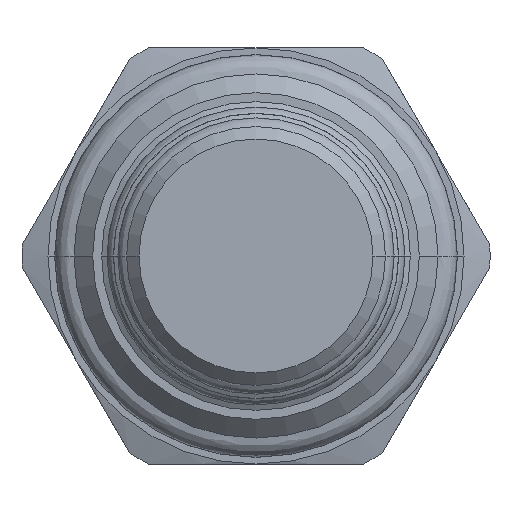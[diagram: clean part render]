
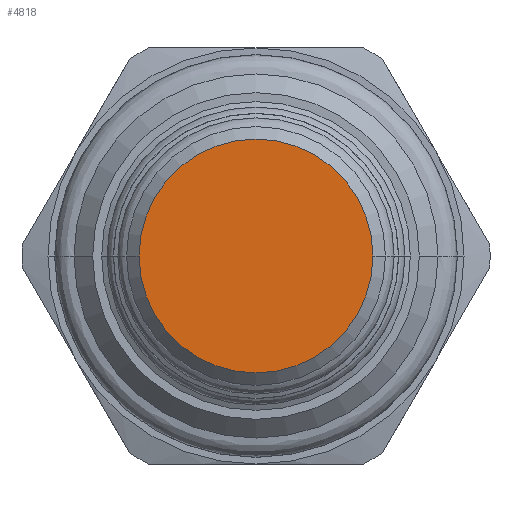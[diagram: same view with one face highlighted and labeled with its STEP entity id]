
A CAD part, front view. The second image highlights one B-rep face of the part: STEP entity #4818.
In plain terms, the highlighted planar face has unit normal (0, -1, 0).
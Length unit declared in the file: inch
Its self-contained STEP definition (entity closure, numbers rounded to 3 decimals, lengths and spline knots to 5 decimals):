
#1793=CARTESIAN_POINT('',(0.,-1.81251,0.));
#1794=DIRECTION('',(0.,-1.,0.));
#1795=DIRECTION('',(-1.,0.,0.));
#1796=AXIS2_PLACEMENT_3D('',#1793,#1794,#1795);
#1811=CARTESIAN_POINT('',(0.,-1.81251,0.));
#1812=DIRECTION('',(0.,1.,0.));
#1813=DIRECTION('',(-1.,0.,0.));
#1814=AXIS2_PLACEMENT_3D('',#1811,#1812,#1813);
#1981=CARTESIAN_POINT('',(-0.281,-1.81251,0.));
#1982=CARTESIAN_POINT('',(0.281,-1.81251,0.));
#1983=VERTEX_POINT('',#1981);
#1984=VERTEX_POINT('',#1982);
#4808=CARTESIAN_POINT('',(0.,-1.81251,0.));
#4809=DIRECTION('',(0.,-1.,0.));
#4810=DIRECTION('',(-1.,0.,0.));
#4811=AXIS2_PLACEMENT_3D('',#4808,#4809,#4810);
#4812=PLANE('',#4811);
#4813=ORIENTED_EDGE('',*,*,#4798,.F.);
#4815=ORIENTED_EDGE('',*,*,#4814,.T.);
#4816=EDGE_LOOP('',(#4813,#4815));
#4817=FACE_OUTER_BOUND('',#4816,.F.);
#4818=ADVANCED_FACE('',(#4817),#4812,.T.);
#1797=CIRCLE('',#1796,0.281);
#1815=CIRCLE('',#1814,0.281);
#4798=EDGE_CURVE('',#1983,#1984,#1797,.T.);
#4814=EDGE_CURVE('',#1983,#1984,#1815,.T.);
